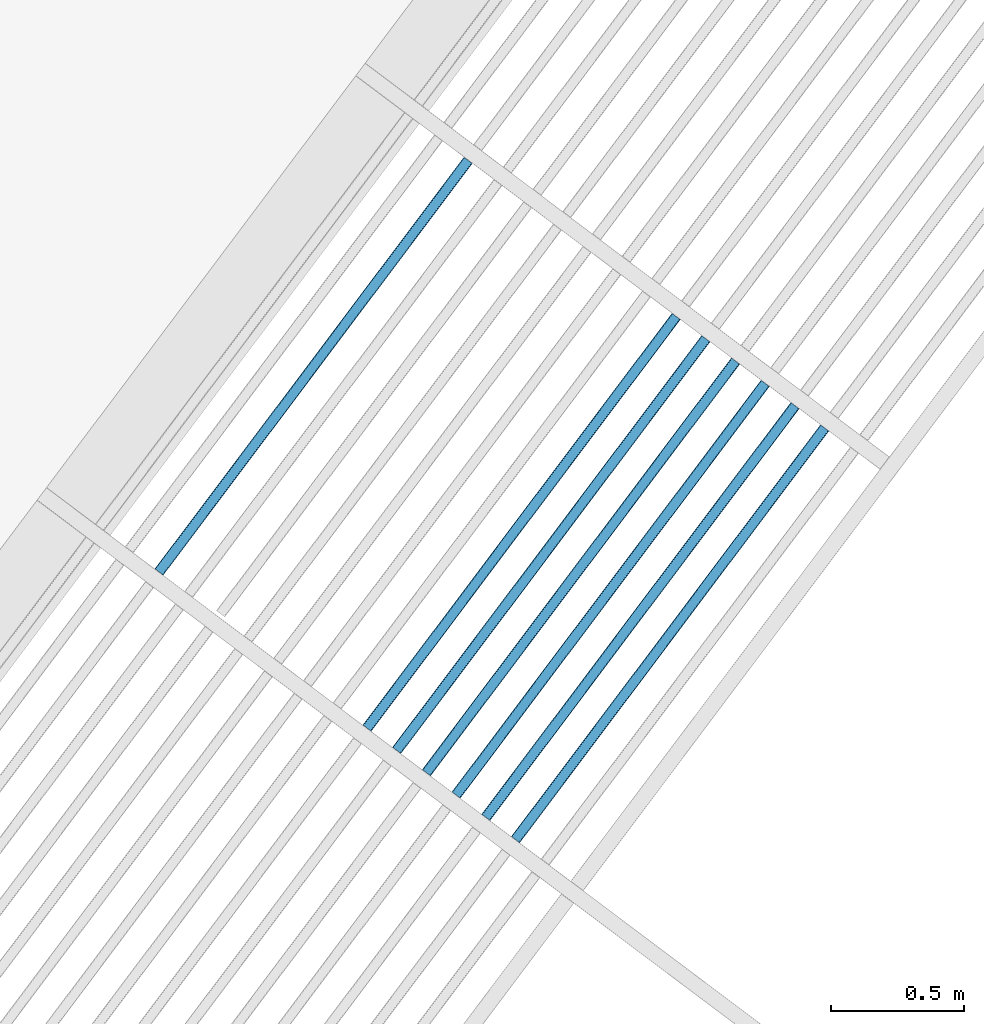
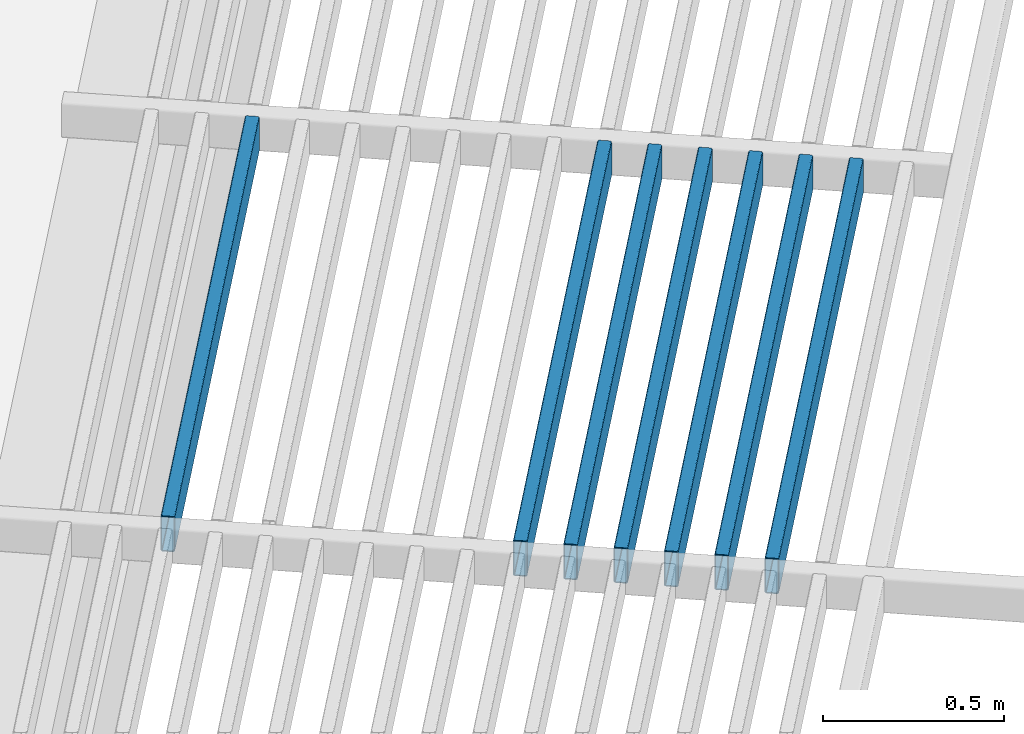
# One storey, part 56 of 95: 7 beams.
"""IFC2X3 building model written with IfcOpenShell, lengths in metres."""

from ifc_helpers import new_model, entity, si_unit, converted_unit, derived_unit, direction, frame, frame_2d, origin, place, context, subcontext, project, spatial, polyline, circle_curve, parameter, trimmed, segment, composite_curve, outline, extrude, material, type_object, element, save


model = new_model("IFC2X3")

# Units and contexts
model_context = context("Model", 3, precision=1e-05, world=origin(), true_north=direction((6.123031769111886e-17, 1.0)))
body_context = subcontext(model_context, "Body", "Model", "MODEL_VIEW")
ifc_project = project(units=[si_unit("LENGTHUNIT", "METRE"), si_unit("AREAUNIT", "SQUARE_METRE"), si_unit("VOLUMEUNIT", "CUBIC_METRE"), converted_unit("PLANEANGLEUNIT", "DEGREE", entity("IfcRatioMeasure", 0.017453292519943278), si_unit("PLANEANGLEUNIT", "RADIAN"), dimensions=[0, 0, 0, 0, 0, 0, 0]), si_unit("MASSUNIT", "GRAM", prefix="KILO"), derived_unit("MASSDENSITYUNIT", [(si_unit("MASSUNIT", "GRAM", prefix="KILO"), 1), (si_unit("LENGTHUNIT", "METRE"), -3)]), derived_unit("IONCONCENTRATIONUNIT", [(si_unit("MASSUNIT", "GRAM", prefix="KILO"), 1), (si_unit("LENGTHUNIT", "METRE"), -3)]), derived_unit("MOMENTOFINERTIAUNIT", [(si_unit("LENGTHUNIT", "METRE"), 4)]), si_unit("TIMEUNIT", "SECOND"), si_unit("FREQUENCYUNIT", "HERTZ"), si_unit("THERMODYNAMICTEMPERATUREUNIT", "DEGREE_CELSIUS"), derived_unit("THERMALTRANSMITTANCEUNIT", [(si_unit("MASSUNIT", "GRAM", prefix="KILO"), 1), (si_unit("THERMODYNAMICTEMPERATUREUNIT", "KELVIN"), -1), (si_unit("TIMEUNIT", "SECOND"), -3)]), derived_unit("THERMALCONDUCTANCEUNIT", [(si_unit("MASSUNIT", "GRAM", prefix="KILO"), 1), (si_unit("THERMODYNAMICTEMPERATUREUNIT", "KELVIN"), -1), (si_unit("TIMEUNIT", "SECOND"), -3), (si_unit("LENGTHUNIT", "METRE"), 1)]), derived_unit("VOLUMETRICFLOWRATEUNIT", [(si_unit("LENGTHUNIT", "METRE"), 3), (si_unit("TIMEUNIT", "SECOND"), -1)]), derived_unit("MASSFLOWRATEUNIT", [(si_unit("MASSUNIT", "GRAM", prefix="KILO"), 1), (si_unit("TIMEUNIT", "SECOND"), -1)]), derived_unit("ROTATIONALFREQUENCYUNIT", [(si_unit("TIMEUNIT", "SECOND"), -1)]), si_unit("ELECTRICCURRENTUNIT", "AMPERE"), si_unit("ELECTRICVOLTAGEUNIT", "VOLT"), si_unit("POWERUNIT", "WATT"), si_unit("FORCEUNIT", "NEWTON", prefix="KILO"), si_unit("ILLUMINANCEUNIT", "LUX"), si_unit("LUMINOUSFLUXUNIT", "LUMEN"), si_unit("LUMINOUSINTENSITYUNIT", "CANDELA"), derived_unit("USERDEFINED", [(si_unit("MASSUNIT", "GRAM", prefix="KILO"), -1), (si_unit("LENGTHUNIT", "METRE"), -2), (si_unit("TIMEUNIT", "SECOND"), 3), (si_unit("LUMINOUSFLUXUNIT", "LUMEN"), 1)]), derived_unit("USERDEFINED", [(si_unit("MASSUNIT", "GRAM", prefix="KILO"), 1), (si_unit("TIMEUNIT", "SECOND"), -3), (si_unit("LENGTHUNIT", "METRE"), 3), (si_unit("ELECTRICCURRENTUNIT", "AMPERE"), -2)]), derived_unit("SOUNDPOWERUNIT", [(si_unit("MASSUNIT", "GRAM", prefix="KILO"), 1), (si_unit("TIMEUNIT", "SECOND"), -3), (si_unit("LENGTHUNIT", "METRE"), 2)]), derived_unit("SOUNDPRESSUREUNIT", [(si_unit("MASSUNIT", "GRAM", prefix="KILO"), 1), (si_unit("LENGTHUNIT", "METRE"), -1), (si_unit("TIMEUNIT", "SECOND"), -2)]), derived_unit("LINEARVELOCITYUNIT", [(si_unit("LENGTHUNIT", "METRE"), 1), (si_unit("TIMEUNIT", "SECOND"), -1)]), si_unit("PRESSUREUNIT", "PASCAL"), derived_unit("USERDEFINED", [(si_unit("MASSUNIT", "GRAM", prefix="KILO"), 1), (si_unit("LENGTHUNIT", "METRE"), -2), (si_unit("TIMEUNIT", "SECOND"), -2)]), derived_unit("LINEARFORCEUNIT", [(si_unit("MASSUNIT", "GRAM", prefix="KILO"), 1), (si_unit("TIMEUNIT", "SECOND"), -2)]), derived_unit("PLANARFORCEUNIT", [(si_unit("MASSUNIT", "GRAM", prefix="KILO"), 1), (si_unit("LENGTHUNIT", "METRE"), -1), (si_unit("TIMEUNIT", "SECOND"), -2)]), derived_unit("SPECIFICHEATCAPACITYUNIT", [(si_unit("THERMODYNAMICTEMPERATUREUNIT", "KELVIN"), -1), (si_unit("LENGTHUNIT", "METRE"), 2), (si_unit("TIMEUNIT", "SECOND"), -2)]), derived_unit("HEATINGVALUEUNIT", [(si_unit("LENGTHUNIT", "METRE"), 2), (si_unit("TIMEUNIT", "SECOND"), -2)]), derived_unit("VAPORPERMEABILITYUNIT", [(si_unit("LENGTHUNIT", "METRE"), -1), (si_unit("TIMEUNIT", "SECOND"), 1)]), derived_unit("DYNAMICVISCOSITYUNIT", [(si_unit("MASSUNIT", "GRAM", prefix="KILO"), 1), (si_unit("TIMEUNIT", "SECOND"), -1), (si_unit("LENGTHUNIT", "METRE"), -1)]), derived_unit("THERMALEXPANSIONCOEFFICIENTUNIT", [(si_unit("THERMODYNAMICTEMPERATUREUNIT", "KELVIN"), -1)]), derived_unit("MODULUSOFELASTICITYUNIT", [(si_unit("MASSUNIT", "GRAM", prefix="KILO"), 1), (si_unit("LENGTHUNIT", "METRE"), -1), (si_unit("TIMEUNIT", "SECOND"), -2)]), derived_unit("ISOTHERMALMOISTURECAPACITYUNIT", [(si_unit("LENGTHUNIT", "METRE"), 3), (si_unit("MASSUNIT", "GRAM", prefix="KILO"), -1)]), derived_unit("MOISTUREDIFFUSIVITYUNIT", [(si_unit("TIMEUNIT", "SECOND"), -1), (si_unit("LENGTHUNIT", "METRE"), 2)])], contexts=[model_context])

# Site, building, storey
site_placement = place(None, origin())
site = spatial("IfcSite", under=ifc_project, at=site_placement, Name="Default", CompositionType="ELEMENT")
building_placement = place(site_placement, frame((0.0, 0.0, 235.0), z_axis=(0.0, 0.0, 1.0), x_axis=(-0.7996477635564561, 0.6004693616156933, 0.0)))
building = spatial("IfcBuilding", under=site, at=building_placement, CompositionType="ELEMENT")
storey_placement = place(building_placement, frame((0.0, 0.0, 3.400000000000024)))
storey = spatial("IfcBuildingStorey", under=building, at=storey_placement, Name="PC- Coberta STR", CompositionType="ELEMENT", Elevation=3.400000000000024)

# Beams
ifc_material = material(Name="_Acer- STR")
beam_type = type_object("IfcBeamType", Name="STR- V- Acer- RHS- Rectangular- T1:120x40RHS -", PredefinedType="NOTDEFINED")
beam_1_placement = place(storey_placement, frame((66.19355240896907, -26.38519175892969, 0.4984047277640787), z_axis=(0.0, 0.0, 1.0), x_axis=(0.0, -1.0, 0.0)))
element("IfcBeam", 1, at=beam_1_placement, inside=storey, type_object=beam_type, material=ifc_material, Name="STR- V- Acer- RHS- Rectangular- T1:120x40RHS -", ObjectType="STR- V- Acer- RHS- Rectangular- T1:120x40RHS -", context=body_context, shape_type="SweptSolid", body=[
    extrude(outline(composite_curve([segment(trimmed(circle_curve(frame_2d((-0.013999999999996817, -0.053999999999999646), x_axis=(1.0, 0.0)), 0.006), [parameter(180.0000000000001)], [parameter(269.99999999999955)], True, "PARAMETER"), True, "CONTINUOUS"), segment(polyline([(-0.013999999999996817, -0.0599999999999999), (0.013999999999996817, -0.0599999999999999)]), True, "CONTINUOUS"), segment(trimmed(circle_curve(frame_2d((0.01400000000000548, -0.053999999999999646), x_axis=(1.0, 0.0)), 0.006), [parameter(269.99999999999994)], [parameter(1.0177774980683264e-13)], True, "PARAMETER"), True, "CONTINUOUS"), segment(polyline([(0.020000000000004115, -0.053999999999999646), (0.020000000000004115, 0.05400000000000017)]), True, "CONTINUOUS"), segment(trimmed(circle_curve(frame_2d((0.01400000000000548, 0.05400000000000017), x_axis=(1.0, 0.0)), 0.006), [parameter(359.9999999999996)], [parameter(89.99999999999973)], True, "PARAMETER"), True, "CONTINUOUS"), segment(polyline([(0.013999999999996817, 0.059999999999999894), (-0.013999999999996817, 0.059999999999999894)]), True, "CONTINUOUS"), segment(trimmed(circle_curve(frame_2d((-0.013999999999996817, 0.05400000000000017), x_axis=(1.0, 0.0)), 0.006), [parameter(90.00000000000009)], [parameter(180.00000000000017)], True, "PARAMETER"), True, "CONTINUOUS"), segment(polyline([(-0.019999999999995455, 0.05400000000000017), (-0.019999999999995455, -0.05400000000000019)]), True, "CONTINUOUS")], self_intersect=False), holes=[composite_curve([segment(polyline([(0.013999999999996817, -0.05700000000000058), (-0.013999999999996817, -0.05700000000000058)]), True, "CONTINUOUS"), segment(trimmed(circle_curve(frame_2d((-0.013999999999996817, -0.05400000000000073), x_axis=(1.0, 0.0)), 0.003), [parameter(179.99999999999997)], [parameter(269.9999999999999)], True, "PARAMETER"), False, "CONTINUOUS"), segment(polyline([(-0.01699999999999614, -0.05400000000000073), (-0.01699999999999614, 0.05399999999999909)]), True, "CONTINUOUS"), segment(trimmed(circle_curve(frame_2d((-0.013999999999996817, 0.05399999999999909), x_axis=(1.0, 0.0)), 0.003), [parameter(90.00000000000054)], [parameter(180.0000000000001)], True, "PARAMETER"), False, "CONTINUOUS"), segment(polyline([(-0.013999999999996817, 0.056999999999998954), (0.013999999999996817, 0.056999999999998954)]), True, "CONTINUOUS"), segment(trimmed(circle_curve(frame_2d((0.01400000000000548, 0.05399999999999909), x_axis=(1.0, 0.0)), 0.003), [parameter(0.0)], [parameter(90.00000000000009)], True, "PARAMETER"), False, "CONTINUOUS"), segment(polyline([(0.017000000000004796, 0.05399999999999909), (0.017000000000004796, -0.05400000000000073)]), True, "CONTINUOUS"), segment(trimmed(circle_curve(frame_2d((0.01400000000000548, -0.05400000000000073), x_axis=(1.0, 0.0)), 0.003), [parameter(270.00000000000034)], [parameter(3.053332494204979e-13)], True, "PARAMETER"), False, "CONTINUOUS")], self_intersect=False)]), frame((-1.9399999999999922, 0.021595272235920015, 0.06159527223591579), z_axis=(1.0, 0.0, 0.0), x_axis=(0.0, -1.0, 0.0)), (0.0, 0.0, 1.0), 1.9399999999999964),
])
beam_2_placement = place(storey_placement, frame((65.2135524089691, -26.38519175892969, 0.4984047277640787), z_axis=(0.0, 0.0, 1.0), x_axis=(0.0, -1.0, 0.0)))
element("IfcBeam", 2, at=beam_2_placement, inside=storey, type_object=beam_type, material=ifc_material, Name="STR- V- Acer- RHS- Rectangular- T1:120x40RHS -", ObjectType="STR- V- Acer- RHS- Rectangular- T1:120x40RHS -", context=body_context, shape_type="SweptSolid", body=[
    extrude(outline(composite_curve([segment(trimmed(circle_curve(frame_2d((-0.01400000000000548, -0.053999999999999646), x_axis=(1.0, 0.0)), 0.006), [parameter(180.0000000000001)], [parameter(269.99999999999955)], True, "PARAMETER"), True, "CONTINUOUS"), segment(polyline([(-0.01400000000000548, -0.0599999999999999), (0.013999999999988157, -0.0599999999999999)]), True, "CONTINUOUS"), segment(trimmed(circle_curve(frame_2d((0.013999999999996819, -0.053999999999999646), x_axis=(1.0, 0.0)), 0.006), [parameter(269.99999999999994)], [parameter(1.0177774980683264e-13)], True, "PARAMETER"), True, "CONTINUOUS"), segment(polyline([(0.019999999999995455, -0.053999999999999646), (0.019999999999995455, 0.05400000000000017)]), True, "CONTINUOUS"), segment(trimmed(circle_curve(frame_2d((0.013999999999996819, 0.05400000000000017), x_axis=(1.0, 0.0)), 0.006), [parameter(359.9999999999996)], [parameter(89.99999999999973)], True, "PARAMETER"), True, "CONTINUOUS"), segment(polyline([(0.013999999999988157, 0.059999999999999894), (-0.01400000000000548, 0.059999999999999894)]), True, "CONTINUOUS"), segment(trimmed(circle_curve(frame_2d((-0.01400000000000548, 0.05400000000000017), x_axis=(1.0, 0.0)), 0.006), [parameter(90.00000000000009)], [parameter(180.00000000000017)], True, "PARAMETER"), True, "CONTINUOUS"), segment(polyline([(-0.02000000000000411, 0.05400000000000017), (-0.02000000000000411, -0.05400000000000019)]), True, "CONTINUOUS")], self_intersect=False), holes=[composite_curve([segment(polyline([(0.013999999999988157, -0.05700000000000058), (-0.01400000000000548, -0.05700000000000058)]), True, "CONTINUOUS"), segment(trimmed(circle_curve(frame_2d((-0.01400000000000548, -0.05400000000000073), x_axis=(1.0, 0.0)), 0.003), [parameter(179.99999999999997)], [parameter(269.9999999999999)], True, "PARAMETER"), False, "CONTINUOUS"), segment(polyline([(-0.017000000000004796, -0.05400000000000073), (-0.017000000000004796, 0.05399999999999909)]), True, "CONTINUOUS"), segment(trimmed(circle_curve(frame_2d((-0.01400000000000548, 0.05399999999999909), x_axis=(1.0, 0.0)), 0.003), [parameter(90.00000000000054)], [parameter(180.0000000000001)], True, "PARAMETER"), False, "CONTINUOUS"), segment(polyline([(-0.01400000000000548, 0.056999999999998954), (0.013999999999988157, 0.056999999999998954)]), True, "CONTINUOUS"), segment(trimmed(circle_curve(frame_2d((0.013999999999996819, 0.05399999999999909), x_axis=(1.0, 0.0)), 0.003), [parameter(0.0)], [parameter(90.00000000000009)], True, "PARAMETER"), False, "CONTINUOUS"), segment(polyline([(0.016999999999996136, 0.05399999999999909), (0.016999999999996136, -0.05400000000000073)]), True, "CONTINUOUS"), segment(trimmed(circle_curve(frame_2d((0.013999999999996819, -0.05400000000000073), x_axis=(1.0, 0.0)), 0.003), [parameter(270.00000000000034)], [parameter(3.053332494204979e-13)], True, "PARAMETER"), False, "CONTINUOUS")], self_intersect=False)]), frame((-1.9399999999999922, 0.021595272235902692, 0.06159527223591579), z_axis=(1.0, 0.0, 0.0), x_axis=(0.0, -1.0, 0.0)), (0.0, 0.0, 1.0), 1.9399999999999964),
])
beam_3_placement = place(storey_placement, frame((65.07355240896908, -26.38519175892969, 0.4984047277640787), z_axis=(0.0, 0.0, 1.0), x_axis=(0.0, -1.0, 0.0)))
element("IfcBeam", 3, at=beam_3_placement, inside=storey, type_object=beam_type, material=ifc_material, Name="STR- V- Acer- RHS- Rectangular- T1:120x40RHS -", ObjectType="STR- V- Acer- RHS- Rectangular- T1:120x40RHS -", context=body_context, shape_type="SweptSolid", body=[
    extrude(outline(composite_curve([segment(trimmed(circle_curve(frame_2d((-0.01399999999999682, -0.053999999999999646), x_axis=(1.0, 0.0)), 0.006), [parameter(180.0000000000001)], [parameter(269.99999999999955)], True, "PARAMETER"), True, "CONTINUOUS"), segment(polyline([(-0.01399999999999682, -0.0599999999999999), (0.013999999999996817, -0.0599999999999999)]), True, "CONTINUOUS"), segment(trimmed(circle_curve(frame_2d((0.014000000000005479, -0.053999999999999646), x_axis=(1.0, 0.0)), 0.006), [parameter(269.99999999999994)], [parameter(1.0177774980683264e-13)], True, "PARAMETER"), True, "CONTINUOUS"), segment(polyline([(0.020000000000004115, -0.053999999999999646), (0.020000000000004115, 0.05400000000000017)]), True, "CONTINUOUS"), segment(trimmed(circle_curve(frame_2d((0.014000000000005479, 0.05400000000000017), x_axis=(1.0, 0.0)), 0.006), [parameter(359.9999999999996)], [parameter(89.99999999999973)], True, "PARAMETER"), True, "CONTINUOUS"), segment(polyline([(0.013999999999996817, 0.059999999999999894), (-0.01399999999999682, 0.059999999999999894)]), True, "CONTINUOUS"), segment(trimmed(circle_curve(frame_2d((-0.01399999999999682, 0.05400000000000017), x_axis=(1.0, 0.0)), 0.006), [parameter(90.00000000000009)], [parameter(180.00000000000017)], True, "PARAMETER"), True, "CONTINUOUS"), segment(polyline([(-0.019999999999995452, 0.05400000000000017), (-0.019999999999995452, -0.05400000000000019)]), True, "CONTINUOUS")], self_intersect=False), holes=[composite_curve([segment(polyline([(0.013999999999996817, -0.05700000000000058), (-0.01399999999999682, -0.05700000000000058)]), True, "CONTINUOUS"), segment(trimmed(circle_curve(frame_2d((-0.01399999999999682, -0.05400000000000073), x_axis=(1.0, 0.0)), 0.003), [parameter(179.99999999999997)], [parameter(269.9999999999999)], True, "PARAMETER"), False, "CONTINUOUS"), segment(polyline([(-0.016999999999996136, -0.05400000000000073), (-0.016999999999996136, 0.05399999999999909)]), True, "CONTINUOUS"), segment(trimmed(circle_curve(frame_2d((-0.01399999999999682, 0.05399999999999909), x_axis=(1.0, 0.0)), 0.003), [parameter(90.00000000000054)], [parameter(180.0000000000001)], True, "PARAMETER"), False, "CONTINUOUS"), segment(polyline([(-0.01399999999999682, 0.056999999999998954), (0.013999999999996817, 0.056999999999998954)]), True, "CONTINUOUS"), segment(trimmed(circle_curve(frame_2d((0.014000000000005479, 0.05399999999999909), x_axis=(1.0, 0.0)), 0.003), [parameter(0.0)], [parameter(90.00000000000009)], True, "PARAMETER"), False, "CONTINUOUS"), segment(polyline([(0.017000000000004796, 0.05399999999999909), (0.017000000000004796, -0.05400000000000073)]), True, "CONTINUOUS"), segment(trimmed(circle_curve(frame_2d((0.014000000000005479, -0.05400000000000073), x_axis=(1.0, 0.0)), 0.003), [parameter(270.00000000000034)], [parameter(3.053332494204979e-13)], True, "PARAMETER"), False, "CONTINUOUS")], self_intersect=False)]), frame((-1.9399999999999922, 0.02159527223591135, 0.06159527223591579), z_axis=(1.0, 0.0, 0.0), x_axis=(0.0, -1.0, 0.0)), (0.0, 0.0, 1.0), 1.9399999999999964),
])
beam_4_placement = place(storey_placement, frame((64.93355240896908, -26.38519175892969, 0.4984047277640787), z_axis=(0.0, 0.0, 1.0), x_axis=(0.0, -1.0, 0.0)))
element("IfcBeam", 4, at=beam_4_placement, inside=storey, type_object=beam_type, material=ifc_material, Name="STR- V- Acer- RHS- Rectangular- T1:120x40RHS -", ObjectType="STR- V- Acer- RHS- Rectangular- T1:120x40RHS -", context=body_context, shape_type="SweptSolid", body=[
    extrude(outline(composite_curve([segment(trimmed(circle_curve(frame_2d((-0.013999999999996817, -0.053999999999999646), x_axis=(1.0, 0.0)), 0.006), [parameter(180.0000000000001)], [parameter(269.99999999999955)], True, "PARAMETER"), True, "CONTINUOUS"), segment(polyline([(-0.013999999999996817, -0.0599999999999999), (0.013999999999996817, -0.0599999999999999)]), True, "CONTINUOUS"), segment(trimmed(circle_curve(frame_2d((0.01400000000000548, -0.053999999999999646), x_axis=(1.0, 0.0)), 0.006), [parameter(269.99999999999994)], [parameter(1.0177774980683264e-13)], True, "PARAMETER"), True, "CONTINUOUS"), segment(polyline([(0.020000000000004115, -0.053999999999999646), (0.020000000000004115, 0.05400000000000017)]), True, "CONTINUOUS"), segment(trimmed(circle_curve(frame_2d((0.01400000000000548, 0.05400000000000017), x_axis=(1.0, 0.0)), 0.006), [parameter(359.9999999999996)], [parameter(89.99999999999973)], True, "PARAMETER"), True, "CONTINUOUS"), segment(polyline([(0.013999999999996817, 0.059999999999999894), (-0.013999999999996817, 0.059999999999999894)]), True, "CONTINUOUS"), segment(trimmed(circle_curve(frame_2d((-0.013999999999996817, 0.05400000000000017), x_axis=(1.0, 0.0)), 0.006), [parameter(90.00000000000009)], [parameter(180.00000000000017)], True, "PARAMETER"), True, "CONTINUOUS"), segment(polyline([(-0.019999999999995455, 0.05400000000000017), (-0.019999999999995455, -0.05400000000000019)]), True, "CONTINUOUS")], self_intersect=False), holes=[composite_curve([segment(polyline([(0.013999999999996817, -0.05700000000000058), (-0.013999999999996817, -0.05700000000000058)]), True, "CONTINUOUS"), segment(trimmed(circle_curve(frame_2d((-0.013999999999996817, -0.05400000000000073), x_axis=(1.0, 0.0)), 0.003), [parameter(179.99999999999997)], [parameter(269.9999999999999)], True, "PARAMETER"), False, "CONTINUOUS"), segment(polyline([(-0.01699999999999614, -0.05400000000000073), (-0.01699999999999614, 0.05399999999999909)]), True, "CONTINUOUS"), segment(trimmed(circle_curve(frame_2d((-0.013999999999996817, 0.05399999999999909), x_axis=(1.0, 0.0)), 0.003), [parameter(90.00000000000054)], [parameter(180.0000000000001)], True, "PARAMETER"), False, "CONTINUOUS"), segment(polyline([(-0.013999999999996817, 0.056999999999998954), (0.013999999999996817, 0.056999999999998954)]), True, "CONTINUOUS"), segment(trimmed(circle_curve(frame_2d((0.01400000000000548, 0.05399999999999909), x_axis=(1.0, 0.0)), 0.003), [parameter(0.0)], [parameter(90.00000000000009)], True, "PARAMETER"), False, "CONTINUOUS"), segment(polyline([(0.017000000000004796, 0.05399999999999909), (0.017000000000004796, -0.05400000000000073)]), True, "CONTINUOUS"), segment(trimmed(circle_curve(frame_2d((0.01400000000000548, -0.05400000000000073), x_axis=(1.0, 0.0)), 0.003), [parameter(270.00000000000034)], [parameter(3.053332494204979e-13)], True, "PARAMETER"), False, "CONTINUOUS")], self_intersect=False)]), frame((-1.9399999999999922, 0.021595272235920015, 0.06159527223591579), z_axis=(1.0, 0.0, 0.0), x_axis=(0.0, -1.0, 0.0)), (0.0, 0.0, 1.0), 1.9399999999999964),
])
beam_5_placement = place(storey_placement, frame((64.79355240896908, -26.38519175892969, 0.4984047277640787), z_axis=(0.0, 0.0, 1.0), x_axis=(0.0, -1.0, 0.0)))
element("IfcBeam", 5, at=beam_5_placement, inside=storey, type_object=beam_type, material=ifc_material, Name="STR- V- Acer- RHS- Rectangular- T1:120x40RHS -", ObjectType="STR- V- Acer- RHS- Rectangular- T1:120x40RHS -", context=body_context, shape_type="SweptSolid", body=[
    extrude(outline(composite_curve([segment(trimmed(circle_curve(frame_2d((-0.013999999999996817, -0.053999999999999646), x_axis=(1.0, 0.0)), 0.006), [parameter(180.0000000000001)], [parameter(269.99999999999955)], True, "PARAMETER"), True, "CONTINUOUS"), segment(polyline([(-0.013999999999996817, -0.0599999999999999), (0.013999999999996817, -0.0599999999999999)]), True, "CONTINUOUS"), segment(trimmed(circle_curve(frame_2d((0.01400000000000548, -0.053999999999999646), x_axis=(1.0, 0.0)), 0.006), [parameter(269.99999999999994)], [parameter(1.0177774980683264e-13)], True, "PARAMETER"), True, "CONTINUOUS"), segment(polyline([(0.020000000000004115, -0.053999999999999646), (0.020000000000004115, 0.05400000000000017)]), True, "CONTINUOUS"), segment(trimmed(circle_curve(frame_2d((0.01400000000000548, 0.05400000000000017), x_axis=(1.0, 0.0)), 0.006), [parameter(359.9999999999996)], [parameter(89.99999999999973)], True, "PARAMETER"), True, "CONTINUOUS"), segment(polyline([(0.013999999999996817, 0.059999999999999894), (-0.013999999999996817, 0.059999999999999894)]), True, "CONTINUOUS"), segment(trimmed(circle_curve(frame_2d((-0.013999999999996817, 0.05400000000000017), x_axis=(1.0, 0.0)), 0.006), [parameter(90.00000000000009)], [parameter(180.00000000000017)], True, "PARAMETER"), True, "CONTINUOUS"), segment(polyline([(-0.019999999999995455, 0.05400000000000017), (-0.019999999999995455, -0.05400000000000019)]), True, "CONTINUOUS")], self_intersect=False), holes=[composite_curve([segment(polyline([(0.013999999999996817, -0.05700000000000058), (-0.013999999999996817, -0.05700000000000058)]), True, "CONTINUOUS"), segment(trimmed(circle_curve(frame_2d((-0.013999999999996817, -0.05400000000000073), x_axis=(1.0, 0.0)), 0.003), [parameter(179.99999999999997)], [parameter(269.9999999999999)], True, "PARAMETER"), False, "CONTINUOUS"), segment(polyline([(-0.01699999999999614, -0.05400000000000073), (-0.01699999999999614, 0.05399999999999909)]), True, "CONTINUOUS"), segment(trimmed(circle_curve(frame_2d((-0.013999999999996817, 0.05399999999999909), x_axis=(1.0, 0.0)), 0.003), [parameter(90.00000000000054)], [parameter(180.0000000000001)], True, "PARAMETER"), False, "CONTINUOUS"), segment(polyline([(-0.013999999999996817, 0.056999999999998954), (0.013999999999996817, 0.056999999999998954)]), True, "CONTINUOUS"), segment(trimmed(circle_curve(frame_2d((0.01400000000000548, 0.05399999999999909), x_axis=(1.0, 0.0)), 0.003), [parameter(0.0)], [parameter(90.00000000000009)], True, "PARAMETER"), False, "CONTINUOUS"), segment(polyline([(0.017000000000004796, 0.05399999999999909), (0.017000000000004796, -0.05400000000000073)]), True, "CONTINUOUS"), segment(trimmed(circle_curve(frame_2d((0.01400000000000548, -0.05400000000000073), x_axis=(1.0, 0.0)), 0.003), [parameter(270.00000000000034)], [parameter(3.053332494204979e-13)], True, "PARAMETER"), False, "CONTINUOUS")], self_intersect=False)]), frame((-1.9399999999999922, 0.021595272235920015, 0.06159527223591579), z_axis=(1.0, 0.0, 0.0), x_axis=(0.0, -1.0, 0.0)), (0.0, 0.0, 1.0), 1.9399999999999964),
])
beam_6_placement = place(storey_placement, frame((64.65355240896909, -26.38519175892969, 0.4984047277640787), z_axis=(0.0, 0.0, 1.0), x_axis=(0.0, -1.0, 0.0)))
element("IfcBeam", 6, at=beam_6_placement, inside=storey, type_object=beam_type, material=ifc_material, Name="STR- V- Acer- RHS- Rectangular- T1:120x40RHS -", ObjectType="STR- V- Acer- RHS- Rectangular- T1:120x40RHS -", context=body_context, shape_type="SweptSolid", body=[
    extrude(outline(composite_curve([segment(trimmed(circle_curve(frame_2d((-0.013999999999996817, -0.053999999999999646), x_axis=(1.0, 0.0)), 0.006), [parameter(180.0000000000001)], [parameter(269.99999999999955)], True, "PARAMETER"), True, "CONTINUOUS"), segment(polyline([(-0.013999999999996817, -0.0599999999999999), (0.013999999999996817, -0.0599999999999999)]), True, "CONTINUOUS"), segment(trimmed(circle_curve(frame_2d((0.01400000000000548, -0.053999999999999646), x_axis=(1.0, 0.0)), 0.006), [parameter(269.99999999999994)], [parameter(1.0177774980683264e-13)], True, "PARAMETER"), True, "CONTINUOUS"), segment(polyline([(0.020000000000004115, -0.053999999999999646), (0.020000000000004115, 0.05400000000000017)]), True, "CONTINUOUS"), segment(trimmed(circle_curve(frame_2d((0.01400000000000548, 0.05400000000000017), x_axis=(1.0, 0.0)), 0.006), [parameter(359.9999999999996)], [parameter(89.99999999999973)], True, "PARAMETER"), True, "CONTINUOUS"), segment(polyline([(0.013999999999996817, 0.059999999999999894), (-0.013999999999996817, 0.059999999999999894)]), True, "CONTINUOUS"), segment(trimmed(circle_curve(frame_2d((-0.013999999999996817, 0.05400000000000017), x_axis=(1.0, 0.0)), 0.006), [parameter(90.00000000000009)], [parameter(180.00000000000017)], True, "PARAMETER"), True, "CONTINUOUS"), segment(polyline([(-0.019999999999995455, 0.05400000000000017), (-0.019999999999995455, -0.05400000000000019)]), True, "CONTINUOUS")], self_intersect=False), holes=[composite_curve([segment(polyline([(0.013999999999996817, -0.05700000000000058), (-0.013999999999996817, -0.05700000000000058)]), True, "CONTINUOUS"), segment(trimmed(circle_curve(frame_2d((-0.013999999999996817, -0.05400000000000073), x_axis=(1.0, 0.0)), 0.003), [parameter(179.99999999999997)], [parameter(269.9999999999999)], True, "PARAMETER"), False, "CONTINUOUS"), segment(polyline([(-0.01699999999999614, -0.05400000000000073), (-0.01699999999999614, 0.05399999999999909)]), True, "CONTINUOUS"), segment(trimmed(circle_curve(frame_2d((-0.013999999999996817, 0.05399999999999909), x_axis=(1.0, 0.0)), 0.003), [parameter(90.00000000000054)], [parameter(180.0000000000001)], True, "PARAMETER"), False, "CONTINUOUS"), segment(polyline([(-0.013999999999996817, 0.056999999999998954), (0.013999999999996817, 0.056999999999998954)]), True, "CONTINUOUS"), segment(trimmed(circle_curve(frame_2d((0.01400000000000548, 0.05399999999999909), x_axis=(1.0, 0.0)), 0.003), [parameter(0.0)], [parameter(90.00000000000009)], True, "PARAMETER"), False, "CONTINUOUS"), segment(polyline([(0.017000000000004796, 0.05399999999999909), (0.017000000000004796, -0.05400000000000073)]), True, "CONTINUOUS"), segment(trimmed(circle_curve(frame_2d((0.01400000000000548, -0.05400000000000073), x_axis=(1.0, 0.0)), 0.003), [parameter(270.00000000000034)], [parameter(3.053332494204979e-13)], True, "PARAMETER"), False, "CONTINUOUS")], self_intersect=False)]), frame((-1.9399999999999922, 0.021595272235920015, 0.06159527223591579), z_axis=(1.0, 0.0, 0.0), x_axis=(0.0, -1.0, 0.0)), (0.0, 0.0, 1.0), 1.9399999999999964),
])
beam_7_placement = place(storey_placement, frame((64.51355240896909, -26.38519175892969, 0.4984047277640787), z_axis=(0.0, 0.0, 1.0), x_axis=(0.0, -1.0, 0.0)))
element("IfcBeam", 7, at=beam_7_placement, inside=storey, type_object=beam_type, material=ifc_material, Name="STR- V- Acer- RHS- Rectangular- T1:120x40RHS -", ObjectType="STR- V- Acer- RHS- Rectangular- T1:120x40RHS -", context=body_context, shape_type="SweptSolid", body=[
    extrude(outline(composite_curve([segment(trimmed(circle_curve(frame_2d((-0.01400000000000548, -0.053999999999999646), x_axis=(1.0, 0.0)), 0.006), [parameter(180.0000000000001)], [parameter(269.99999999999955)], True, "PARAMETER"), True, "CONTINUOUS"), segment(polyline([(-0.01400000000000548, -0.0599999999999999), (0.013999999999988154, -0.0599999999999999)]), True, "CONTINUOUS"), segment(trimmed(circle_curve(frame_2d((0.013999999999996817, -0.053999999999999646), x_axis=(1.0, 0.0)), 0.006), [parameter(269.99999999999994)], [parameter(1.0177774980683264e-13)], True, "PARAMETER"), True, "CONTINUOUS"), segment(polyline([(0.019999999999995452, -0.053999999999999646), (0.019999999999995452, 0.05400000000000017)]), True, "CONTINUOUS"), segment(trimmed(circle_curve(frame_2d((0.013999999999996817, 0.05400000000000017), x_axis=(1.0, 0.0)), 0.006), [parameter(359.9999999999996)], [parameter(89.99999999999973)], True, "PARAMETER"), True, "CONTINUOUS"), segment(polyline([(0.013999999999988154, 0.059999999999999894), (-0.01400000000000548, 0.059999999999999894)]), True, "CONTINUOUS"), segment(trimmed(circle_curve(frame_2d((-0.01400000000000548, 0.05400000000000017), x_axis=(1.0, 0.0)), 0.006), [parameter(90.00000000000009)], [parameter(180.00000000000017)], True, "PARAMETER"), True, "CONTINUOUS"), segment(polyline([(-0.02000000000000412, 0.05400000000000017), (-0.02000000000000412, -0.05400000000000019)]), True, "CONTINUOUS")], self_intersect=False), holes=[composite_curve([segment(polyline([(0.013999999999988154, -0.05700000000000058), (-0.01400000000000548, -0.05700000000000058)]), True, "CONTINUOUS"), segment(trimmed(circle_curve(frame_2d((-0.01400000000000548, -0.05400000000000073), x_axis=(1.0, 0.0)), 0.003), [parameter(179.99999999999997)], [parameter(269.9999999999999)], True, "PARAMETER"), False, "CONTINUOUS"), segment(polyline([(-0.017000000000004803, -0.05400000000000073), (-0.017000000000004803, 0.05399999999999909)]), True, "CONTINUOUS"), segment(trimmed(circle_curve(frame_2d((-0.01400000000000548, 0.05399999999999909), x_axis=(1.0, 0.0)), 0.003), [parameter(90.00000000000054)], [parameter(180.0000000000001)], True, "PARAMETER"), False, "CONTINUOUS"), segment(polyline([(-0.01400000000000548, 0.056999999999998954), (0.013999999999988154, 0.056999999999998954)]), True, "CONTINUOUS"), segment(trimmed(circle_curve(frame_2d((0.013999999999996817, 0.05399999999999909), x_axis=(1.0, 0.0)), 0.003), [parameter(0.0)], [parameter(90.00000000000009)], True, "PARAMETER"), False, "CONTINUOUS"), segment(polyline([(0.016999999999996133, 0.05399999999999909), (0.016999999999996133, -0.05400000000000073)]), True, "CONTINUOUS"), segment(trimmed(circle_curve(frame_2d((0.013999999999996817, -0.05400000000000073), x_axis=(1.0, 0.0)), 0.003), [parameter(270.00000000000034)], [parameter(3.053332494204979e-13)], True, "PARAMETER"), False, "CONTINUOUS")], self_intersect=False)]), frame((-1.9399999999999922, 0.02159527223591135, 0.06159527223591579), z_axis=(1.0, 0.0, 0.0), x_axis=(0.0, -1.0, 0.0)), (0.0, 0.0, 1.0), 1.9399999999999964),
])

save(model, "model.ifc")
